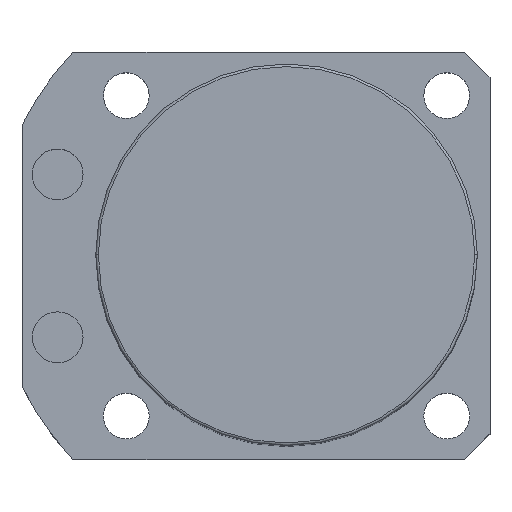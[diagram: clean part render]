
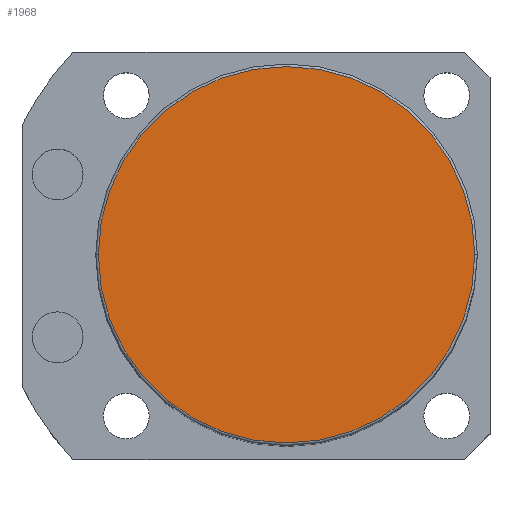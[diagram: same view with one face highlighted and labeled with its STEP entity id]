
A CAD part, top view. The second image highlights one B-rep face of the part: STEP entity #1968.
In plain terms, the highlighted planar face has unit normal (0, 0, 1).
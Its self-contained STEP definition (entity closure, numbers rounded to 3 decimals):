
#306 = DIRECTION ( 'NONE',  ( 0., 0., 1. ) ) ;
#316 = DIRECTION ( 'NONE',  ( 1., 0., 0. ) ) ;
#338 = FACE_OUTER_BOUND ( 'NONE', #890, .T. ) ;
#359 = ORIENTED_EDGE ( 'NONE', *, *, #1485, .T. ) ;
#456 = EDGE_CURVE ( 'NONE', #2425, #1260, #805, .T. ) ;
#805 = CIRCLE ( 'NONE', #1960, 37. ) ;
#890 = EDGE_LOOP ( 'NONE', ( #2366, #359 ) ) ;
#1132 = PLANE ( 'NONE',  #2165 ) ;
#1253 = CARTESIAN_POINT ( 'NONE',  ( 0., 0., 140.5 ) ) ;
#1260 = VERTEX_POINT ( 'NONE', #2092 ) ;
#1297 = DIRECTION ( 'NONE',  ( 1., 0., 0. ) ) ;
#1429 = CARTESIAN_POINT ( 'NONE',  ( 0., 0., 140.5 ) ) ;
#1485 = EDGE_CURVE ( 'NONE', #1260, #2425, #2203, .T. ) ;
#1489 = CARTESIAN_POINT ( 'NONE',  ( 0., 0., 140.5 ) ) ;
#1650 = DIRECTION ( 'NONE',  ( 0., 0., 1. ) ) ;
#1869 = DIRECTION ( 'NONE',  ( 0., 0., 1. ) ) ;
#1960 = AXIS2_PLACEMENT_3D ( 'NONE', #1429, #306, #316 ) ;
#1968 = ADVANCED_FACE ( 'NONE', ( #338 ), #1132, .T. ) ;
#2037 = DIRECTION ( 'NONE',  ( 1., 0., 0. ) ) ;
#2092 = CARTESIAN_POINT ( 'NONE',  ( -37., 0., 140.5 ) ) ;
#2165 = AXIS2_PLACEMENT_3D ( 'NONE', #1489, #1869, #1297 ) ;
#2203 = CIRCLE ( 'NONE', #2409, 37. ) ;
#2366 = ORIENTED_EDGE ( 'NONE', *, *, #456, .T. ) ;
#2409 = AXIS2_PLACEMENT_3D ( 'NONE', #1253, #1650, #2037 ) ;
#2425 = VERTEX_POINT ( 'NONE', #2458 ) ;
#2458 = CARTESIAN_POINT ( 'NONE',  ( 37., 0., 140.5 ) ) ;
